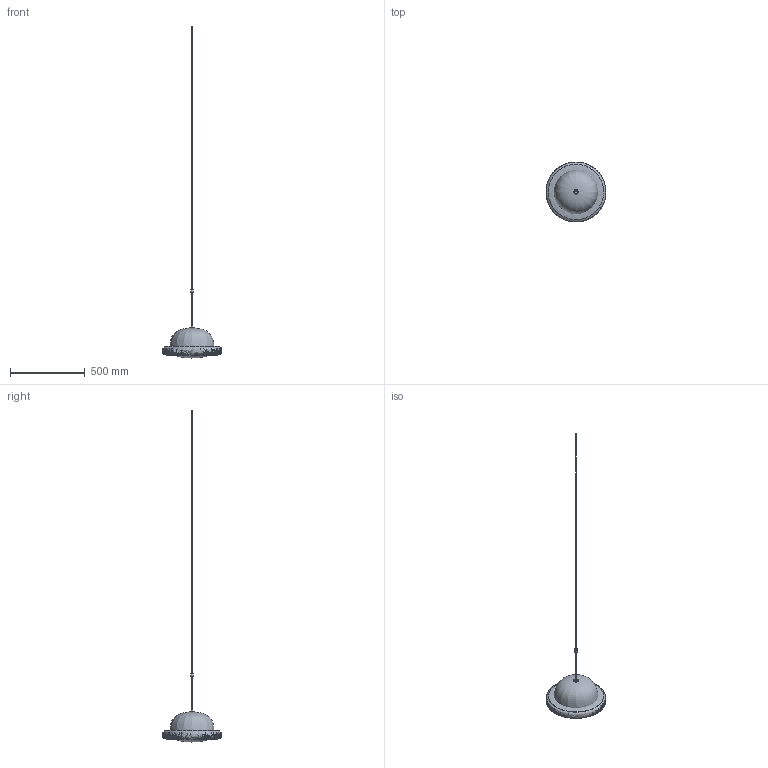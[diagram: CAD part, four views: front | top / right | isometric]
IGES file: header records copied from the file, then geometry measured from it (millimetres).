
Global section: file name: /Users/064_p/Desktop/3d data_02/ILKW_MAGRITTE40_Pendant_3D.igs; native system: Rhinoceros ( Jul  7 2025 ); preprocessor: Trout Lake IGES 012 Jul  7 2025; date: 260828.085529; units: millimetre
Bounding box: 399.98 x 399.97 x 2218.1 mm (x, y, z)
Surface area: 409090.4 mm2 (no closed solid volume)
Topology: 0 solids, 0 shells, 25 faces, 91 edges, 80 vertices
Faces by surface type: bspline 25
